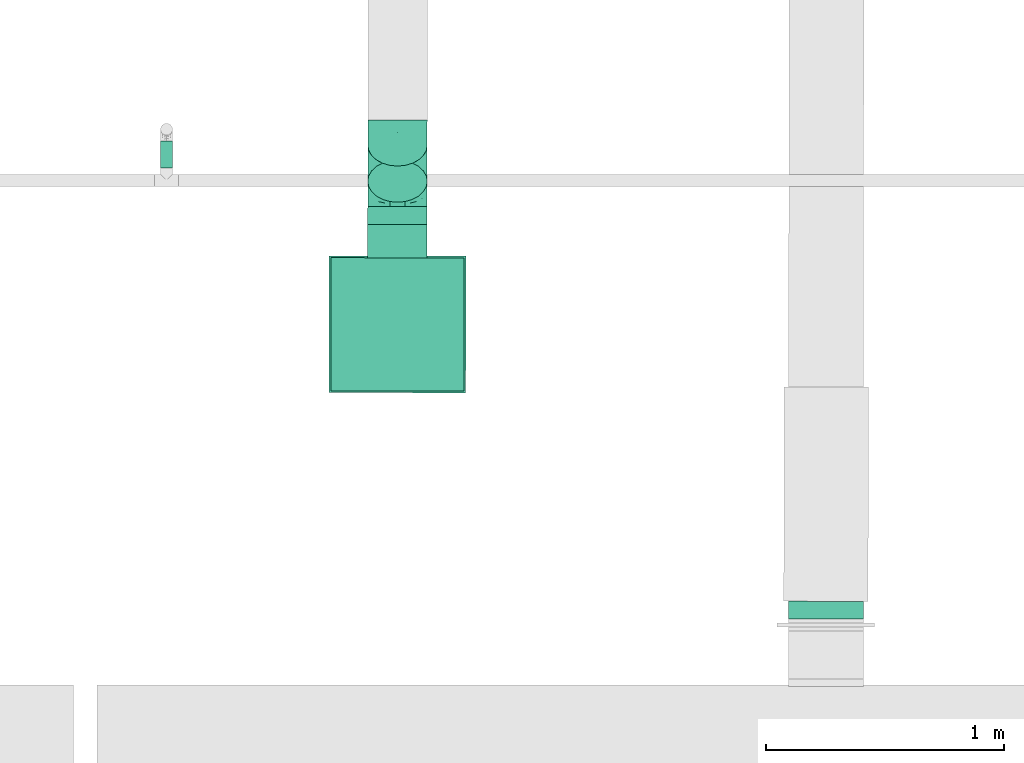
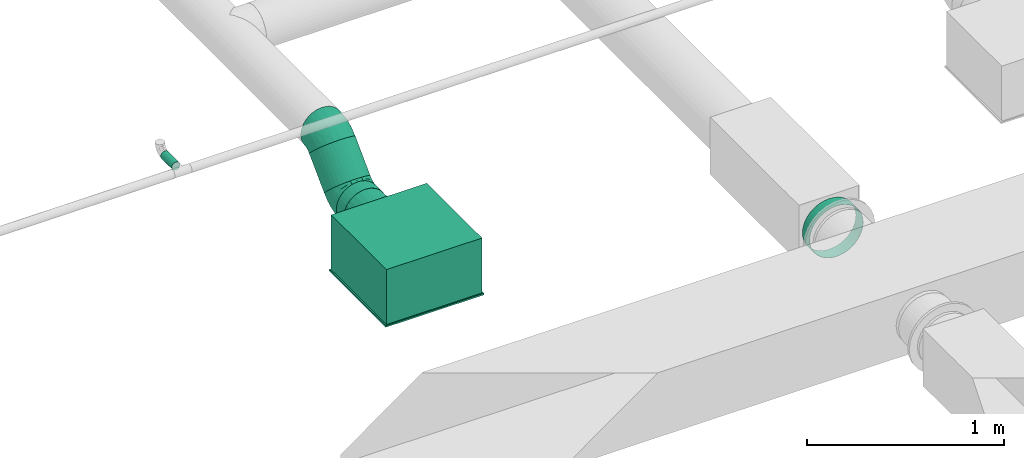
# One storey, part 33 of 63: 4 flow segments, 2 flow fittings, 1 flow terminal.
"""IFC2X3 building model written with IfcOpenShell, lengths in millimetres."""

from ifc_helpers import new_model, entity, si_unit, converted_unit, derived_unit, direction, frame, origin_with_axes, origin_2d_with_axis, place, context, subcontext, project, spatial, hollow_circle, extrude, open_shell, surface_model, source, transform, mapped, type_object, element, save


model = new_model("IFC2X3")

# Units and contexts
model_context = context("Model", 3, precision=0.01, world=frame((0.0, 4.29681676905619e-09, 0.0)), true_north=direction((4.01073788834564e-13, 1.0)))
plan_context = context("Plan", 3, precision=0.01, world=frame((0.0, 4.29681676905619e-09, 0.0)), true_north=direction((4.01073788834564e-13, 1.0)))
body_context = subcontext(model_context, "Body", "Model", "MODEL_VIEW")
ifc_project = project(units=[converted_unit("PLANEANGLEUNIT", "DEGREE", entity("IfcPositiveLengthMeasure", 0.0174532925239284), si_unit("PLANEANGLEUNIT", "RADIAN"), dimensions=[0, 0, 0, 0, 0, 0, 0]), si_unit("AREAUNIT", "SQUARE_METRE"), si_unit("LENGTHUNIT", "METRE", prefix="MILLI"), si_unit("MASSUNIT", "GRAM", prefix="KILO"), si_unit("POWERUNIT", "WATT"), si_unit("PRESSUREUNIT", "PASCAL"), si_unit("FORCEUNIT", "NEWTON", prefix="KILO"), si_unit("ELECTRICVOLTAGEUNIT", "VOLT"), si_unit("ELECTRICCURRENTUNIT", "AMPERE"), si_unit("THERMODYNAMICTEMPERATUREUNIT", "DEGREE_CELSIUS"), si_unit("TIMEUNIT", "SECOND"), si_unit("VOLUMEUNIT", "CUBIC_METRE"), derived_unit("LINEARVELOCITYUNIT", [(si_unit("LENGTHUNIT", "METRE"), 1), (si_unit("TIMEUNIT", "SECOND"), -1)]), derived_unit("VOLUMETRICFLOWRATEUNIT", [(si_unit("VOLUMEUNIT", "CUBIC_METRE"), 1), (si_unit("TIMEUNIT", "SECOND"), -1)]), derived_unit("THERMALTRANSMITTANCEUNIT", [(si_unit("POWERUNIT", "WATT"), 1), (si_unit("THERMODYNAMICTEMPERATUREUNIT", "KELVIN"), -1), (si_unit("AREAUNIT", "SQUARE_METRE"), -1)]), derived_unit("SOUNDPRESSUREUNIT", [(si_unit("PRESSUREUNIT", "PASCAL"), 1)])], contexts=[model_context, plan_context])

# Site, building, storey
site_placement = place(None, frame((0.0, -4.29681676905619e-09, 0.0), z_axis=(0.0, 0.0, 1.0), x_axis=(1.0, 0.0, 0.0)))
site = spatial("IfcSite", under=ifc_project, at=site_placement, CompositionType="ELEMENT")
building_placement = place(site_placement, frame((0.0, 4.29681676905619e-09, 0.0), z_axis=(0.0, 0.0, 1.0), x_axis=(1.0, 0.0, 0.0)))
building = spatial("IfcBuilding", under=site, at=building_placement, Name="mc-building", CompositionType="ELEMENT")
storey_placement = place(building_placement, frame((0.0, 0.0, 210900.0), z_axis=(0.0, 0.0, 1.0), x_axis=(1.0, 0.0, 0.0)))
storey = spatial("IfcBuildingStorey", under=building, at=storey_placement, Name="Nivå F", CompositionType="ELEMENT", Elevation=210900.0)

# Flow fittings
duct_fitting_type = type_object("IfcDuctFittingType", Name="magicirc_elbow_short_001", PredefinedType="BEND")
shared_shape_1 = source(origin_with_axes(), body_context, "Body", "SurfaceModel", [
    surface_model("IfcShellBasedSurfaceModel", [(-62.13204, 0.0, -125.0), (-62.13204, -32.35238, -120.74073), (-62.13204, 32.35238, -120.74073), (-62.13204, 62.5, -108.25318), (-62.13204, 88.38835, -88.38835), (-62.13204, 108.25318, -62.5), (-62.13204, 120.74073, -32.35238), (-62.13204, -62.5, -108.25318), (-62.13204, -88.38835, -88.38835), (-62.13204, -125.0, 0.0), (-62.13204, -108.25318, -62.5), (-62.13204, -120.74073, -32.35238), (-62.13204, 125.0, 0.0), (-62.13204, -120.74073, 32.35238), (-62.13204, 120.74073, 32.35238), (-62.13204, 108.25318, 62.5), (-62.13204, 32.35238, 120.74073), (-62.13204, 62.5, 108.25318), (-62.13204, 88.38835, 88.38835), (-62.13204, -88.38835, 88.38835), (-62.13204, -108.25318, 62.5), (-62.13204, -32.35238, 120.74073), (-62.13204, 0.0, 125.0), (-62.13204, -62.5, 108.25318), (-32.61257, 120.48054, -62.5), (-41.44261, 129.31057, -32.35238), (-44.45436, 132.32233, 0.0), (-41.44261, 129.31057, 32.35238), (-32.61257, 120.48054, 62.5), (-39.32094, -100.77129, 72.52866), (-25.3983, -115.58366, 40.92131), (-9.38975, -99.61313, 67.6303), (-40.71594, 99.20513, 81.38635), (-18.56602, 106.43398, 88.38835), (6.93461, -16.74165, 121.22697), (-29.92798, -19.88945, 122.8817), (-17.69423, -50.99343, 111.83063), (-28.63512, 12.8945, 124.68547), (-43.55871, 45.16564, 117.17454), (-19.1971, 46.34588, 119.14586), (20.11216, -107.05726, 35.36285), (37.22525, -89.79474, 60.1728), (-42.64489, 65.81413, 107.6176), (18.18237, -43.89615, 109.72868), (-48.14682, 116.23669, 52.46898), (11.13029, 29.36587, 124.68547), (-8.4822, -119.71595, 0.0), (17.31186, -111.89141, 0.0), (-27.44697, 77.92943, 103.54984), (-1.13628, 62.73759, 117.17454), (-0.26019, 88.12816, 108.25318), (29.58221, -71.41779, 87.09722), (2.27359, -83.55864, 84.32151), (46.20365, -49.09439, 98.73245), (43.10591, -104.06687, 0.0), (-28.63512, 12.89449, -124.68547), (-29.92797, -19.88945, -122.8817), (11.13029, 29.36586, -124.68547), (-19.1971, 46.34588, -119.14586), (-43.55871, 45.16564, -117.17454), (-35.69649, 74.51237, -103.54983), (-25.3983, -115.58366, -40.92131), (-48.14682, 116.23669, -52.46898), (-39.32094, -100.77129, -72.52866), (-16.38313, 76.69211, -107.6176), (-18.56602, 106.43398, -88.38835), (-0.26019, 88.12816, -108.25318), (-17.69423, -50.99343, -111.83063), (6.93461, -16.74165, -121.22697), (-1.13628, 62.73759, -117.17454), (48.5695, -23.54609, -111.83063), (35.22623, 7.0983, -122.8817), (-9.38975, -99.61313, -67.63031), (2.04406, -67.38589, -98.73245), (29.58221, -71.41778, -87.09723), (43.93399, 43.934, -125.0), (106.43399, -18.56599, 88.38835), (132.32235, -44.45434, 0.0), (21.05739, 66.81058, -120.74073), (88.12817, -0.26017, 108.25318), (66.81057, 21.05741, -120.74073), (106.43399, -18.56599, -88.38835), (88.12817, -0.26017, -108.25318), (129.31058, -41.44258, -32.35238), (120.48055, -32.61255, -62.5), (21.05739, 66.81058, 120.74073), (43.93399, 43.934, 125.0), (129.31058, -41.44258, 32.35238), (120.48055, -32.61255, 62.5), (66.81057, 21.05741, 120.74073), (-31.08246, -121.94188, 0.0), (35.22622, 7.09831, 122.8817), (-25.98217, -78.69805, 94.74512), (-3.43913, -67.17105, 100.02812), (77.07669, -63.79755, 67.6303), (61.9235, -89.5906, 35.66991), (-52.56496, 126.90301, 0.0), (99.68931, -63.77067, 40.92131), (48.5695, -23.54609, 111.83062), (99.06018, -43.45194, 72.52866), (74.0201, -37.27574, 94.74512), (108.20455, -64.2473, 0.0), (90.64979, -78.65413, 0.0), (66.87785, -91.36049, 0.0), (19.56361, -107.13664, -35.66991), (-41.35812, 98.93914, -81.38635), (-25.98217, -78.69805, -94.74512), (61.47949, -89.92235, -35.36285), (18.18239, -43.89616, -109.72867), (57.47721, -60.69254, -84.32152), (74.02009, -37.27574, -94.74513), (77.07669, -63.79755, -67.6303), (37.17223, -89.81669, -60.17279), (99.68931, -63.77066, -40.92131), (99.06018, -43.45194, -72.52866), (49.92893, -45.06527, -100.02812)], [open_shell([[[0, 1, 2]], [[3, 2, 4]], [[1, 5, 2]], [[4, 2, 5]], [[5, 1, 6]], [[7, 8, 1]], [[9, 1, 8]], [[10, 11, 8]], [[9, 8, 11]], [[9, 6, 1]], [[9, 12, 6]], [[12, 13, 14]], [[15, 14, 16]], [[16, 17, 18]], [[15, 16, 18]], [[16, 14, 19]], [[20, 19, 13]], [[19, 14, 13]], [[21, 22, 23]], [[19, 23, 22]], [[19, 22, 16]], [[9, 13, 12]], [[24, 25, 26]], [[26, 27, 28]], [[29, 30, 31]], [[32, 33, 28]], [[30, 20, 13]], [[34, 35, 36]], [[21, 35, 22]], [[21, 23, 36]], [[16, 22, 37]], [[38, 37, 39]], [[31, 40, 41]], [[42, 17, 38]], [[38, 17, 16]], [[43, 34, 36]], [[35, 37, 22]], [[14, 15, 44]], [[42, 32, 18]], [[29, 19, 20]], [[40, 31, 30]], [[37, 45, 39]], [[45, 37, 34]], [[40, 46, 47]], [[42, 18, 17]], [[33, 32, 48]], [[27, 44, 28]], [[48, 39, 49]], [[33, 48, 50]], [[44, 32, 28]], [[18, 32, 15]], [[36, 35, 21]], [[37, 35, 34]], [[41, 51, 52]], [[14, 44, 27]], [[32, 44, 15]], [[37, 38, 16]], [[42, 39, 48]], [[39, 42, 38]], [[42, 48, 32]], [[48, 49, 50]], [[45, 49, 39]], [[30, 29, 20]], [[53, 43, 51]], [[46, 40, 30]], [[47, 54, 40]], [[41, 52, 31]], [[0, 2, 55]], [[56, 1, 0]], [[57, 55, 58]], [[59, 60, 58]], [[10, 61, 11]], [[3, 4, 60]], [[62, 6, 25]], [[61, 10, 63]], [[64, 65, 66]], [[1, 56, 67]], [[8, 63, 10]], [[7, 1, 67]], [[56, 55, 68]], [[25, 24, 62]], [[69, 64, 66]], [[2, 3, 59]], [[59, 55, 2]], [[69, 57, 58]], [[70, 68, 71]], [[55, 57, 68]], [[55, 56, 0]], [[67, 56, 68]], [[57, 71, 68]], [[6, 62, 5]], [[60, 59, 3]], [[55, 59, 58]], [[64, 58, 60]], [[58, 64, 69]], [[61, 63, 72]], [[72, 73, 74]], [[75, 76, 77]], [[66, 26, 78]], [[78, 79, 75]], [[24, 66, 65]], [[66, 24, 26]], [[80, 81, 82]], [[80, 75, 81]], [[81, 83, 84]], [[83, 81, 77]], [[75, 77, 81]], [[26, 28, 50]], [[50, 85, 26]], [[50, 28, 33]], [[26, 85, 86]], [[87, 76, 88]], [[77, 76, 87]], [[79, 86, 89]], [[76, 75, 79]], [[86, 79, 26]], [[78, 26, 79]], [[90, 46, 30]], [[91, 45, 34]], [[23, 92, 36]], [[52, 93, 92]], [[94, 41, 95]], [[23, 19, 92]], [[96, 14, 27]], [[40, 95, 41]], [[96, 12, 14]], [[94, 95, 97]], [[40, 54, 95]], [[98, 89, 91]], [[99, 88, 76]], [[89, 98, 79]], [[88, 99, 97]], [[88, 97, 87]], [[98, 100, 79]], [[53, 94, 100]], [[97, 101, 87]], [[85, 50, 49]], [[41, 94, 51]], [[30, 13, 90]], [[26, 96, 27]], [[95, 102, 97]], [[95, 54, 103]], [[86, 91, 89]], [[86, 85, 45]], [[45, 85, 49]], [[34, 43, 98]], [[29, 92, 19]], [[79, 100, 76]], [[52, 92, 31]], [[95, 103, 102]], [[53, 100, 98]], [[99, 100, 94]], [[45, 91, 86]], [[98, 91, 34]], [[13, 9, 90]], [[101, 97, 102]], [[101, 77, 87]], [[92, 29, 31]], [[100, 99, 76]], [[97, 99, 94]], [[93, 36, 92]], [[51, 43, 93]], [[51, 93, 52]], [[43, 36, 93]], [[43, 53, 98]], [[94, 53, 51]], [[104, 46, 61]], [[78, 75, 57]], [[4, 105, 60]], [[73, 72, 106]], [[80, 82, 70]], [[61, 90, 11]], [[83, 77, 101]], [[106, 7, 67]], [[107, 102, 103]], [[104, 54, 47]], [[72, 104, 61]], [[106, 8, 7]], [[68, 108, 67]], [[6, 12, 96]], [[109, 110, 111]], [[96, 26, 25]], [[112, 72, 74]], [[113, 83, 101]], [[82, 81, 110]], [[113, 84, 83]], [[64, 105, 65]], [[4, 5, 105]], [[114, 81, 84]], [[110, 109, 115]], [[70, 82, 110]], [[66, 78, 69]], [[75, 80, 71]], [[111, 114, 113]], [[108, 68, 70]], [[113, 101, 102]], [[107, 104, 112]], [[107, 111, 113]], [[111, 107, 112]], [[71, 57, 75]], [[104, 47, 46]], [[96, 25, 6]], [[114, 110, 81]], [[107, 54, 104]], [[73, 106, 67]], [[63, 106, 72]], [[62, 105, 5]], [[65, 105, 24]], [[70, 71, 80]], [[90, 61, 46]], [[90, 9, 11]], [[72, 112, 104]], [[112, 74, 109]], [[105, 62, 24]], [[57, 69, 78]], [[64, 60, 105]], [[113, 114, 84]], [[110, 114, 111]], [[106, 63, 8]], [[115, 70, 110]], [[73, 108, 74]], [[102, 107, 113]], [[103, 54, 107]], [[112, 109, 111]], [[74, 108, 115]], [[74, 115, 109]], [[108, 70, 115]], [[108, 73, 67]]])]),
])
flow_fitting_1_placement = place(storey_placement, frame((523301.16159, 458542.69984, 3960.01264), z_axis=(0.999999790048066, -0.000647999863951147, 0.0), x_axis=(0.000647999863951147, 0.999999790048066, 0.0)))
element("IfcFlowFitting", 1, at=flow_fitting_1_placement, inside=storey, type_object=duct_fitting_type, Name="magicirc_elbow_short_001", context=body_context, shape_type="MappedRepresentation", body=[
    mapped(shared_shape_1, transform((0.0, 0.0, 0.0), scale=1.0)),
])
shared_shape_2 = source(origin_with_axes(), body_context, "Body", "SurfaceModel", [
    surface_model("IfcShellBasedSurfaceModel", [(-62.13204, 0.0, -125.0), (-62.13204, -32.35238, -120.74073), (-62.13204, 32.35238, -120.74073), (-62.13204, 62.5, -108.25318), (-62.13204, 88.38835, -88.38835), (-62.13204, 108.25318, -62.5), (-62.13204, 120.74073, -32.35238), (-62.13204, -62.5, -108.25318), (-62.13204, -88.38835, -88.38835), (-62.13204, -125.0, 0.0), (-62.13204, -108.25318, -62.5), (-62.13204, -120.74073, -32.35238), (-62.13204, 125.0, 0.0), (-62.13204, -120.74073, 32.35238), (-62.13204, 120.74073, 32.35238), (-62.13204, 108.25318, 62.5), (-62.13204, 32.35238, 120.74073), (-62.13204, 62.5, 108.25318), (-62.13204, 88.38835, 88.38835), (-62.13204, -88.38835, 88.38835), (-62.13204, -108.25318, 62.5), (-62.13204, -32.35238, 120.74073), (-62.13204, 0.0, 125.0), (-62.13204, -62.5, 108.25318), (-32.61257, 120.48054, -62.5), (-41.44261, 129.31057, -32.35238), (-44.45436, 132.32233, 0.0), (-41.44261, 129.31057, 32.35238), (-32.61257, 120.48054, 62.5), (-39.32094, -100.77129, 72.52866), (-25.3983, -115.58366, 40.92131), (-9.38975, -99.61313, 67.6303), (-40.71594, 99.20513, 81.38635), (-18.56602, 106.43398, 88.38835), (6.93461, -16.74165, 121.22697), (-29.92798, -19.88945, 122.8817), (-17.69423, -50.99343, 111.83063), (-28.63512, 12.8945, 124.68547), (-43.55871, 45.16564, 117.17454), (-19.1971, 46.34588, 119.14586), (20.11216, -107.05726, 35.36285), (37.22525, -89.79474, 60.1728), (-42.64489, 65.81413, 107.6176), (18.18237, -43.89615, 109.72868), (-48.14682, 116.23669, 52.46898), (11.13029, 29.36587, 124.68547), (-8.4822, -119.71595, 0.0), (17.31186, -111.89141, 0.0), (-27.44697, 77.92943, 103.54984), (-1.13628, 62.73759, 117.17454), (-0.26019, 88.12816, 108.25318), (29.58221, -71.41779, 87.09722), (2.27359, -83.55864, 84.32151), (46.20365, -49.09439, 98.73245), (43.10591, -104.06687, 0.0), (-28.63512, 12.89449, -124.68547), (-29.92797, -19.88945, -122.8817), (11.13029, 29.36586, -124.68547), (-19.1971, 46.34588, -119.14586), (-43.55871, 45.16564, -117.17454), (-35.69649, 74.51237, -103.54983), (-25.3983, -115.58366, -40.92131), (-48.14682, 116.23669, -52.46898), (-39.32094, -100.77129, -72.52866), (-16.38313, 76.69211, -107.6176), (-18.56602, 106.43398, -88.38835), (-0.26019, 88.12816, -108.25318), (-17.69423, -50.99343, -111.83063), (6.93461, -16.74165, -121.22697), (-1.13628, 62.73759, -117.17454), (48.5695, -23.54609, -111.83063), (35.22623, 7.0983, -122.8817), (-9.38975, -99.61313, -67.63031), (2.04406, -67.38589, -98.73245), (29.58221, -71.41778, -87.09723), (43.93399, 43.934, -125.0), (106.43399, -18.56599, 88.38835), (132.32235, -44.45434, 0.0), (21.05739, 66.81058, -120.74073), (88.12817, -0.26017, 108.25318), (66.81057, 21.05741, -120.74073), (106.43399, -18.56599, -88.38835), (88.12817, -0.26017, -108.25318), (129.31058, -41.44258, -32.35238), (120.48055, -32.61255, -62.5), (21.05739, 66.81058, 120.74073), (43.93399, 43.934, 125.0), (129.31058, -41.44258, 32.35238), (120.48055, -32.61255, 62.5), (66.81057, 21.05741, 120.74073), (-31.08246, -121.94188, 0.0), (35.22622, 7.09831, 122.8817), (77.07669, -63.79755, 67.6303), (61.9235, -89.5906, 35.66991), (-52.56496, 126.90301, 0.0), (99.68931, -63.77067, 40.92131), (48.5695, -23.54609, 111.83062), (99.06018, -43.45194, 72.52866), (74.0201, -37.27574, 94.74512), (108.20455, -64.2473, 0.0), (90.64979, -78.65413, 0.0), (66.87785, -91.36049, 0.0), (-3.43913, -67.17105, 100.02812), (19.56361, -107.13664, -35.66991), (-41.35812, 98.93914, -81.38635), (-25.98217, -78.69805, -94.74512), (61.47949, -89.92235, -35.36285), (18.18239, -43.89616, -109.72867), (57.47721, -60.69254, -84.32152), (74.02009, -37.27574, -94.74513), (77.07669, -63.79755, -67.6303), (37.17223, -89.81669, -60.17279), (99.68931, -63.77066, -40.92131), (99.06018, -43.45194, -72.52866), (49.92893, -45.06527, -100.02812), (-25.98217, -78.69805, 94.74512)], [open_shell([[[0, 1, 2]], [[3, 2, 4]], [[1, 5, 2]], [[4, 2, 5]], [[5, 1, 6]], [[7, 8, 1]], [[9, 1, 8]], [[10, 11, 8]], [[9, 8, 11]], [[9, 6, 1]], [[9, 12, 6]], [[12, 13, 14]], [[15, 14, 16]], [[16, 17, 18]], [[15, 16, 18]], [[16, 14, 19]], [[20, 19, 13]], [[19, 14, 13]], [[21, 22, 23]], [[19, 23, 22]], [[19, 22, 16]], [[9, 13, 12]], [[24, 25, 26]], [[26, 27, 28]], [[29, 30, 31]], [[32, 33, 28]], [[30, 20, 13]], [[34, 35, 36]], [[21, 35, 22]], [[21, 23, 36]], [[16, 22, 37]], [[38, 37, 39]], [[31, 40, 41]], [[42, 17, 38]], [[38, 17, 16]], [[43, 34, 36]], [[35, 37, 22]], [[14, 15, 44]], [[42, 32, 18]], [[29, 19, 20]], [[40, 31, 30]], [[37, 45, 39]], [[45, 37, 34]], [[40, 46, 47]], [[42, 18, 17]], [[33, 32, 48]], [[27, 44, 28]], [[48, 39, 49]], [[33, 48, 50]], [[44, 32, 28]], [[18, 32, 15]], [[36, 35, 21]], [[37, 35, 34]], [[41, 51, 52]], [[14, 44, 27]], [[32, 44, 15]], [[37, 38, 16]], [[42, 39, 48]], [[39, 42, 38]], [[42, 48, 32]], [[48, 49, 50]], [[45, 49, 39]], [[30, 29, 20]], [[53, 43, 51]], [[46, 40, 30]], [[47, 54, 40]], [[41, 52, 31]], [[0, 2, 55]], [[56, 1, 0]], [[57, 55, 58]], [[59, 60, 58]], [[10, 61, 11]], [[3, 4, 60]], [[62, 6, 25]], [[61, 10, 63]], [[64, 65, 66]], [[1, 56, 67]], [[8, 63, 10]], [[7, 1, 67]], [[56, 55, 68]], [[25, 24, 62]], [[69, 64, 66]], [[2, 3, 59]], [[59, 55, 2]], [[69, 57, 58]], [[70, 68, 71]], [[55, 57, 68]], [[55, 56, 0]], [[67, 56, 68]], [[57, 71, 68]], [[6, 62, 5]], [[60, 59, 3]], [[55, 59, 58]], [[64, 58, 60]], [[58, 64, 69]], [[61, 63, 72]], [[72, 73, 74]], [[75, 76, 77]], [[66, 26, 78]], [[78, 79, 75]], [[24, 66, 65]], [[66, 24, 26]], [[80, 81, 82]], [[80, 75, 81]], [[81, 83, 84]], [[83, 81, 77]], [[75, 77, 81]], [[26, 28, 50]], [[50, 85, 26]], [[50, 28, 33]], [[26, 85, 86]], [[87, 76, 88]], [[77, 76, 87]], [[79, 86, 89]], [[76, 75, 79]], [[86, 79, 26]], [[78, 26, 79]], [[90, 46, 30]], [[91, 45, 34]], [[92, 41, 93]], [[94, 14, 27]], [[40, 93, 41]], [[94, 12, 14]], [[92, 93, 95]], [[40, 54, 93]], [[96, 89, 91]], [[97, 88, 76]], [[89, 96, 79]], [[88, 97, 95]], [[88, 95, 87]], [[96, 98, 79]], [[53, 92, 98]], [[95, 99, 87]], [[85, 50, 49]], [[41, 92, 51]], [[30, 13, 90]], [[26, 94, 27]], [[93, 100, 95]], [[93, 54, 101]], [[86, 91, 89]], [[86, 85, 45]], [[45, 85, 49]], [[34, 43, 96]], [[79, 98, 76]], [[93, 101, 100]], [[53, 98, 96]], [[97, 98, 92]], [[45, 91, 86]], [[96, 91, 34]], [[13, 9, 90]], [[99, 95, 100]], [[99, 77, 87]], [[98, 97, 76]], [[95, 97, 92]], [[51, 43, 102]], [[51, 102, 52]], [[43, 36, 102]], [[43, 53, 96]], [[92, 53, 51]], [[103, 46, 61]], [[78, 75, 57]], [[4, 104, 60]], [[73, 72, 105]], [[80, 82, 70]], [[61, 90, 11]], [[83, 77, 99]], [[105, 7, 67]], [[106, 100, 101]], [[103, 54, 47]], [[72, 103, 61]], [[105, 8, 7]], [[68, 107, 67]], [[6, 12, 94]], [[108, 109, 110]], [[94, 26, 25]], [[111, 72, 74]], [[112, 83, 99]], [[82, 81, 109]], [[112, 84, 83]], [[64, 104, 65]], [[4, 5, 104]], [[113, 81, 84]], [[109, 108, 114]], [[70, 82, 109]], [[66, 78, 69]], [[75, 80, 71]], [[110, 113, 112]], [[107, 68, 70]], [[112, 99, 100]], [[106, 103, 111]], [[106, 110, 112]], [[110, 106, 111]], [[71, 57, 75]], [[103, 47, 46]], [[94, 25, 6]], [[113, 109, 81]], [[106, 54, 103]], [[73, 105, 67]], [[63, 105, 72]], [[62, 104, 5]], [[65, 104, 24]], [[70, 71, 80]], [[90, 61, 46]], [[90, 9, 11]], [[72, 111, 103]], [[111, 74, 108]], [[104, 62, 24]], [[57, 69, 78]], [[64, 60, 104]], [[112, 113, 84]], [[109, 113, 110]], [[105, 63, 8]], [[114, 70, 109]], [[73, 107, 74]], [[100, 106, 112]], [[101, 54, 106]], [[111, 108, 110]], [[74, 107, 114]], [[74, 114, 108]], [[107, 70, 114]], [[107, 73, 67]], [[23, 115, 36]], [[52, 102, 115]], [[23, 19, 115]], [[29, 115, 19]], [[52, 115, 31]], [[115, 29, 31]], [[102, 36, 115]]])]),
])
flow_fitting_2_placement = place(storey_placement, frame((523301.31704, 458782.68709, 4200.0), z_axis=(-0.999999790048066, 0.000647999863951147, -3.79470760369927e-19), x_axis=(0.000458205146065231, 0.707106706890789, 0.707106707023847)))
element("IfcFlowFitting", 2, at=flow_fitting_2_placement, inside=storey, type_object=duct_fitting_type, Name="magicirc_elbow_short_001", context=body_context, shape_type="MappedRepresentation", body=[
    mapped(shared_shape_2, transform((0.0, 0.0, 0.0), scale=1.0)),
])

# Flow segments
duct_segment_type_1 = type_object("IfcDuctSegmentType", Name="KK002T - Spiro kanaler, Forsinket stål, korte bend", PredefinedType="RIGIDSEGMENT")
shared_shape_3 = source(origin_with_axes(), body_context, "Body", "SweptSolid", [
    extrude(hollow_circle(Radius=125.0, WallThickness=2.0, at=origin_2d_with_axis()), frame((0.0, 0.0, 0.0), z_axis=(1.0, 0.0, 0.0), x_axis=(0.0, 1.0, 0.0)), (0.0, 0.0, 1.0), 75.7),
])
flow_segment_1_placement = place(storey_placement, frame((523301.07229, 458404.84783, 3960.01264), z_axis=(0.0, 0.0, 1.0), x_axis=(0.000647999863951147, 0.999999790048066, 0.0)))
element("IfcFlowSegment", 3, at=flow_segment_1_placement, inside=storey, type_object=duct_segment_type_1, Name="KK002T - Spiro kanaler, Forsinket stål, korte bend", context=body_context, shape_type="MappedRepresentation", body=[
    mapped(shared_shape_3, transform((0.0, 0.0, 0.0), scale=1.0)),
])
shared_shape_4 = source(origin_with_axes(), body_context, "Body", "SweptSolid", [
    extrude(hollow_circle(Radius=125.0, WallThickness=2.0, at=origin_2d_with_axis()), frame((0.0, 0.0, 0.0), z_axis=(1.0, 0.0, 0.0), x_axis=(0.0, 1.0, 0.0)), (0.0, 0.0, 1.0), 215.1),
])
flow_segment_2_placement = place(storey_placement, frame((523301.19004, 458586.63382, 4003.94662999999), z_axis=(-0.00045799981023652, -0.707106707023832, 0.707106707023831), x_axis=(0.000457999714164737, 0.707106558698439, 0.707106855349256)))
element("IfcFlowSegment", 4, at=flow_segment_2_placement, inside=storey, type_object=duct_segment_type_1, Name="KK002T - Spiro kanaler, Forsinket stål, korte bend", context=body_context, shape_type="MappedRepresentation", body=[
    mapped(shared_shape_4, transform((0.0, 0.0, 0.0), scale=1.0)),
])
shared_shape_5 = source(origin_with_axes(), body_context, "Body", "SweptSolid", [
    extrude(hollow_circle(Radius=157.5, WallThickness=2.0, at=origin_2d_with_axis()), frame((0.0, 0.0, 0.0), z_axis=(1.0, 0.0, 0.0), x_axis=(0.0, 1.0, 0.0)), (0.0, 0.0, 1.0), 73.9),
])
flow_segment_3_placement = place(storey_placement, frame((525102.78216, 456820.55511, 4200.0), z_axis=(0.0, 0.0, 1.0), x_axis=(-0.000647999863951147, -0.999999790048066, 0.0)))
element("IfcFlowSegment", 5, at=flow_segment_3_placement, inside=storey, type_object=duct_segment_type_1, Name="KK002T - Spiro kanaler, Forsinket stål, korte bend", context=body_context, shape_type="MappedRepresentation", body=[
    mapped(shared_shape_5, transform((0.0, 0.0, 0.0), scale=1.0)),
])
duct_segment_type_2 = type_object("IfcDuctSegmentType", Name="Sirkulær kanal", PredefinedType="RIGIDSEGMENT")
shared_shape_6 = source(origin_with_axes(), body_context, "Body", "SweptSolid", [
    extrude(hollow_circle(Radius=25.0, WallThickness=2.0, at=origin_2d_with_axis()), frame((0.0, 0.0, 0.0), z_axis=(1.0, 0.0, 0.0), x_axis=(0.0, 1.0, 0.0)), (0.0, 0.0, 1.0), 113.0),
])
flow_segment_4_placement = place(storey_placement, frame((522330.0, 458642.0, 4425.0), z_axis=(0.0, 0.0, 1.0), x_axis=(0.0, 1.0, 0.0)))
element("IfcFlowSegment", 6, at=flow_segment_4_placement, inside=storey, type_object=duct_segment_type_2, Name="Sirkulær kanal", context=body_context, shape_type="MappedRepresentation", body=[
    mapped(shared_shape_6, transform((0.0, 0.0, 0.0), scale=1.0)),
])

# Flow terminal
air_terminal_type = type_object("IfcAirTerminalType", Name="NS19-H-S-2-250 - 4-way", PredefinedType="NOTDEFINED")
shared_shape_7 = source(origin_with_axes(), body_context, "Body", "SurfaceModel", [
    surface_model("IfcShellBasedSurfaceModel", [(-287.5, 287.5, 0.0), (-287.5, -287.5, 0.0), (287.5, -287.5, 0.0), (287.5, 287.5, 0.0), (287.5, 287.5, -10.0), (287.5, -287.5, -10.0), (-287.5, -287.5, -10.0), (-287.5, 287.5, -10.0), (-280.0, 280.0, 340.0), (-280.0, -280.0, 340.0), (280.0, -280.0, 340.0), (280.0, 280.0, 340.0), (280.0, 280.0, 0.0), (280.0, -280.0, 0.0), (-280.0, -280.0, 0.0), (-280.0, 280.0, 0.0), (-280.0, 62.5, 81.74683), (-280.0, 88.38835, 101.61165), (-280.0, 62.4, 81.92003), (-280.0, 32.30062, 69.45246), (-280.0, 0.0, 65.2), (-280.0, 32.35238, 69.25927), (-280.0, 0.0, 65.0), (-280.0, 88.24693, 101.75307), (-280.0, 120.74073, 157.64763), (-280.0, 124.8, 189.99999), (-280.0, 120.54755, 157.69939), (-280.0, 125.0, 189.99999), (-280.0, 108.25318, 127.5), (-280.0, 108.07997, 127.6), (-280.0, -32.30062, 69.45246), (-280.0, -32.35238, 69.25927), (-280.0, -62.4, 81.92003), (-280.0, -88.38835, 101.61165), (-280.0, -62.5, 81.74683), (-280.0, -88.24693, 101.75307), (-280.0, -108.07997, 127.6), (-280.0, -108.25318, 127.5), (-280.0, -120.54755, 157.69939), (-280.0, -120.74073, 157.64763), (-280.0, -124.8, 189.99999), (-280.0, -125.0, 189.99999), (-280.0, 120.74073, 222.35238), (-280.0, 120.54755, 222.30062), (-280.0, 108.07997, 252.4), (-280.0, 108.25318, 252.49999), (-280.0, 88.24693, 278.24693), (-280.0, 88.38835, 278.38835), (-280.0, 62.5, 298.25318), (-280.0, 62.4, 298.07997), (-280.0, 32.30062, 310.54754), (-280.0, 32.35238, 310.74073), (-280.0, 0.0, 314.80001), (-280.0, 0.0, 315.0), (-280.0, -108.25318, 252.49999), (-280.0, -108.07997, 252.4), (-280.0, -88.38835, 278.38835), (-280.0, -88.24693, 278.24693), (-280.0, -120.74073, 222.35238), (-280.0, -120.54755, 222.30062), (-280.0, -32.30062, 310.54754), (-280.0, -32.35238, 310.74073), (-280.0, -62.4, 298.07997), (-280.0, -62.5, 298.25318), (-420.00002, 62.5, 298.25318), (-420.00002, 88.38835, 278.38835), (-420.00002, 62.4, 298.07997), (-420.00002, 32.30062, 310.54754), (-420.00002, 0.0, 314.80001), (-420.00002, 32.35238, 310.74073), (-420.00002, 0.0, 315.0), (-420.00002, 88.24693, 278.24693), (-420.00002, 120.74073, 222.35238), (-420.00002, 124.8, 189.99999), (-420.00002, 120.54755, 222.30062), (-420.00002, 125.0, 189.99999), (-420.00002, 108.25318, 252.49999), (-420.00002, 108.07997, 252.4), (-420.00002, -32.30062, 310.54754), (-420.00002, -32.35238, 310.74073), (-420.00002, -62.4, 298.07997), (-420.00002, -88.38835, 278.38835), (-420.00002, -62.5, 298.25318), (-420.00002, -88.24693, 278.24693), (-420.00002, -108.07997, 252.4), (-420.00002, -108.25318, 252.49999), (-420.00002, -120.54755, 222.30062), (-420.00002, -120.74073, 222.35238), (-420.00002, -124.8, 189.99999), (-420.00002, -125.0, 189.99999), (-420.00002, 120.74073, 157.64763), (-420.00002, 120.54755, 157.69939), (-420.00002, 108.07997, 127.6), (-420.00002, 108.25318, 127.5), (-420.00002, 88.24693, 101.75307), (-420.00002, 88.38835, 101.61165), (-420.00002, 62.5, 81.74683), (-420.00002, 62.4, 81.92003), (-420.00002, 32.30062, 69.45246), (-420.00002, 32.35238, 69.25927), (-420.00002, 0.0, 65.2), (-420.00002, 0.0, 65.0), (-420.00002, -108.25318, 127.5), (-420.00002, -108.07997, 127.6), (-420.00002, -88.38835, 101.61165), (-420.00002, -88.24693, 101.75307), (-420.00002, -120.74073, 157.64763), (-420.00002, -120.54755, 157.69939), (-420.00002, -32.30062, 69.45246), (-420.00002, -32.35238, 69.25927), (-420.00002, -62.4, 81.92003), (-420.00002, -62.5, 81.74683)], [open_shell([[[0, 1, 2]], [[2, 3, 0]], [[4, 5, 6]], [[6, 7, 4]], [[2, 1, 6]], [[6, 5, 2]], [[3, 2, 5]], [[5, 4, 3]], [[0, 3, 4]], [[4, 7, 0]], [[1, 0, 7]], [[7, 6, 1]], [[8, 9, 10]], [[10, 11, 8]], [[12, 13, 14]], [[14, 15, 12]], [[10, 9, 14]], [[14, 13, 10]], [[11, 10, 13]], [[13, 12, 11]], [[8, 11, 12]], [[12, 15, 8]], [[9, 8, 15]], [[15, 14, 9]], [[16, 17, 18]], [[16, 18, 19]], [[20, 21, 19]], [[21, 20, 22]], [[19, 21, 16]], [[18, 17, 23]], [[24, 25, 26]], [[25, 24, 27]], [[24, 26, 28]], [[23, 28, 29]], [[28, 23, 17]], [[29, 28, 26]], [[22, 30, 31]], [[31, 30, 32]], [[33, 34, 35]], [[32, 34, 31]], [[32, 35, 34]], [[22, 20, 30]], [[36, 37, 33]], [[37, 36, 38]], [[36, 33, 35]], [[39, 38, 40]], [[38, 39, 37]], [[39, 40, 41]], [[27, 42, 43]], [[43, 42, 44]], [[44, 45, 46]], [[45, 44, 42]], [[46, 45, 47]], [[47, 48, 49]], [[49, 48, 50]], [[50, 51, 52]], [[51, 50, 48]], [[52, 51, 53]], [[49, 46, 47]], [[54, 55, 56]], [[56, 55, 57]], [[55, 54, 58]], [[41, 59, 58]], [[58, 59, 55]], [[41, 40, 59]], [[60, 53, 61]], [[60, 61, 62]], [[57, 63, 56]], [[57, 62, 63]], [[63, 62, 61]], [[52, 53, 60]], [[43, 25, 27]], [[64, 65, 66]], [[64, 66, 67]], [[68, 69, 67]], [[69, 68, 70]], [[67, 69, 64]], [[66, 65, 71]], [[72, 73, 74]], [[73, 72, 75]], [[72, 74, 76]], [[71, 76, 77]], [[76, 71, 65]], [[77, 76, 74]], [[70, 78, 79]], [[79, 78, 80]], [[81, 82, 83]], [[80, 82, 79]], [[80, 83, 82]], [[70, 68, 78]], [[84, 85, 81]], [[85, 84, 86]], [[84, 81, 83]], [[87, 86, 88]], [[86, 87, 85]], [[87, 88, 89]], [[75, 90, 91]], [[91, 90, 92]], [[92, 93, 94]], [[93, 92, 90]], [[94, 93, 95]], [[95, 96, 97]], [[97, 96, 98]], [[98, 99, 100]], [[99, 98, 96]], [[100, 99, 101]], [[97, 94, 95]], [[102, 103, 104]], [[104, 103, 105]], [[103, 102, 106]], [[89, 107, 106]], [[106, 107, 103]], [[89, 88, 107]], [[108, 101, 109]], [[108, 109, 110]], [[105, 111, 104]], [[105, 110, 111]], [[111, 110, 109]], [[100, 101, 108]], [[91, 73, 75]], [[39, 106, 102]], [[104, 37, 102]], [[34, 111, 109]], [[104, 111, 33]], [[31, 109, 101]], [[106, 41, 89]], [[106, 39, 41]], [[102, 37, 39]], [[104, 33, 37]], [[34, 33, 111]], [[109, 31, 34]], [[101, 22, 31]], [[21, 99, 96]], [[95, 16, 96]], [[28, 93, 90]], [[95, 93, 17]], [[24, 90, 75]], [[99, 21, 22]], [[96, 16, 21]], [[95, 17, 16]], [[93, 28, 17]], [[24, 28, 90]], [[75, 27, 24]], [[99, 22, 101]], [[42, 75, 72]], [[45, 72, 76]], [[48, 64, 69]], [[51, 69, 70]], [[72, 45, 42]], [[42, 27, 75]], [[65, 47, 45]], [[47, 65, 48]], [[48, 65, 64]], [[69, 51, 48]], [[65, 45, 76]], [[70, 53, 51]], [[61, 79, 82]], [[81, 63, 82]], [[54, 85, 87]], [[81, 85, 56]], [[58, 87, 89]], [[79, 61, 53]], [[82, 63, 61]], [[81, 56, 63]], [[85, 54, 56]], [[58, 54, 87]], [[89, 41, 58]], [[79, 53, 70]], [[103, 107, 38]], [[103, 36, 105]], [[108, 110, 32]], [[35, 110, 105]], [[100, 108, 30]], [[88, 40, 107]], [[40, 38, 107]], [[38, 36, 103]], [[36, 35, 105]], [[110, 35, 32]], [[32, 30, 108]], [[30, 20, 100]], [[97, 98, 19]], [[97, 18, 94]], [[91, 92, 29]], [[23, 92, 94]], [[73, 91, 26]], [[20, 19, 98]], [[19, 18, 97]], [[18, 23, 94]], [[23, 29, 92]], [[91, 29, 26]], [[26, 25, 73]], [[100, 20, 98]], [[74, 73, 43]], [[77, 74, 44]], [[67, 66, 49]], [[68, 67, 50]], [[43, 44, 74]], [[73, 25, 43]], [[44, 46, 71]], [[49, 71, 46]], [[66, 71, 49]], [[49, 50, 67]], [[77, 44, 71]], [[50, 52, 68]], [[80, 78, 60]], [[80, 62, 83]], [[86, 84, 55]], [[57, 84, 83]], [[88, 86, 59]], [[52, 60, 78]], [[60, 62, 80]], [[62, 57, 83]], [[57, 55, 84]], [[86, 55, 59]], [[59, 40, 88]], [[68, 52, 78]]])]),
])
flow_terminal_placement = place(storey_placement, frame((523300.80022, 457984.82018, 3770.0), z_axis=(0.0, 0.0, 1.0), x_axis=(-0.000647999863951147, -0.999999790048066, 0.0)))
element("IfcFlowTerminal", 7, at=flow_terminal_placement, inside=storey, type_object=air_terminal_type, Name="NS19-H-S-2-250 - 4-way", context=body_context, shape_type="MappedRepresentation", body=[
    mapped(shared_shape_7, transform((0.0, 0.0, 0.0), scale=1.0)),
])

save(model, "model.ifc")
